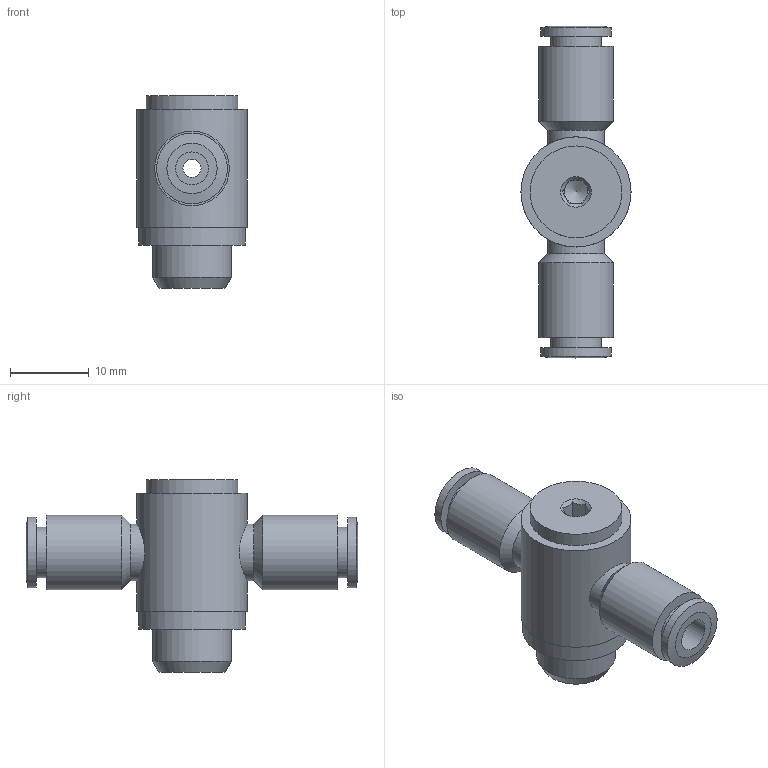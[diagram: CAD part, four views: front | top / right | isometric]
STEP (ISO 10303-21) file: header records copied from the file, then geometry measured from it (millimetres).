
FILE_DESCRIPTION((''),'2;1');
FILE_NAME('C:\Documents and Settings\rivolro1\Documenti\copia di Raccordi\PLASTICA\T16XXXX\T160418.stp','2007-10-31T15:06:18',('Rivolro1'),(''),'Autodesk Inventor 2008','Autodesk Inventor 2008','');
FILE_SCHEMA(('AUTOMOTIVE_DESIGN { 1 0 10303 214 1 1 1 1 }'));
Length unit declared in the file: millimetre
Products named in the file (1): T160418
Bounding box: 14 x 42.2 x 24.5 mm (x, y, z)
Volume: 4539.8 mm3; surface area: 2806.7 mm2
Topology: 1 solids, 1 shells, 48 faces, 101 edges, 65 vertices
Faces by surface type: plane 23, cylinder 12, bspline 8, cone 5
Full cylindrical faces by diameter (mm): 6.4 x2, 7.2 x2, 9 x2, 9.5 x2, 10 x1, 11.667 x1, 13.6 x1, 14 x1
Entity records: 1387 total; most frequent: CARTESIAN_POINT 449, DIRECTION 178, ORIENTED_EDGE 142, EDGE_LOOP 84, AXIS2_PLACEMENT_3D 80, EDGE_CURVE 71, VERTEX_POINT 59, FACE_OUTER_BOUND 48
